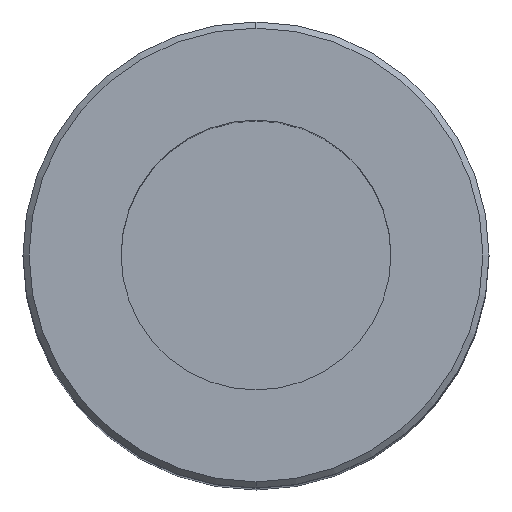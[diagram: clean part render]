
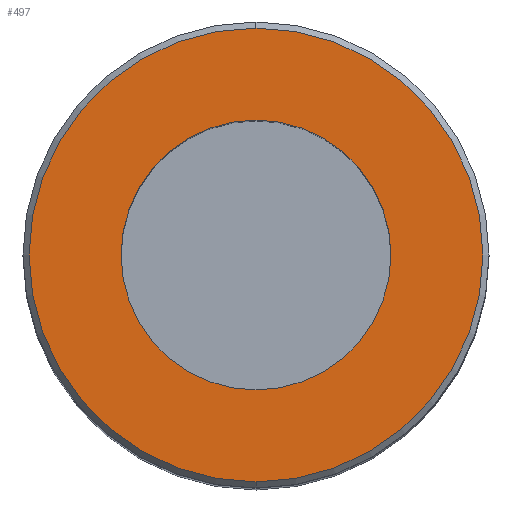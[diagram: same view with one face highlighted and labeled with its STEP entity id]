
A CAD part, top view. The second image highlights one B-rep face of the part: STEP entity #497.
In plain terms, the highlighted planar face has unit normal (0, 0, 1).
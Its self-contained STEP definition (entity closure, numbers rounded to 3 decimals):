
#400 = VERTEX_POINT('',#401);
#401 = CARTESIAN_POINT('',(0.,18.5,92.));
#407 = EDGE_CURVE('',#408,#400,#410,.T.);
#408 = VERTEX_POINT('',#409);
#409 = CARTESIAN_POINT('',(0.,-18.5,92.));
#410 = CIRCLE('',#411,18.5);
#411 = AXIS2_PLACEMENT_3D('',#412,#413,#414);
#412 = CARTESIAN_POINT('',(0.,0.,92.));
#413 = DIRECTION('',(0.,0.,1.));
#414 = DIRECTION('',(0.,1.,0.));
#434 = EDGE_CURVE('',#400,#408,#435,.T.);
#435 = CIRCLE('',#436,18.5);
#436 = AXIS2_PLACEMENT_3D('',#437,#438,#439);
#437 = CARTESIAN_POINT('',(0.,0.,92.));
#438 = DIRECTION('',(0.,0.,1.));
#439 = DIRECTION('',(0.,1.,0.));
#497 = ADVANCED_FACE('',(#498,#518),#522,.T.);
#498 = FACE_BOUND('',#499,.T.);
#499 = EDGE_LOOP('',(#500,#511));
#500 = ORIENTED_EDGE('',*,*,#501,.F.);
#501 = EDGE_CURVE('',#502,#504,#506,.T.);
#502 = VERTEX_POINT('',#503);
#503 = CARTESIAN_POINT('',(0.,11.,92.));
#504 = VERTEX_POINT('',#505);
#505 = CARTESIAN_POINT('',(0.,-11.,92.));
#506 = CIRCLE('',#507,11.);
#507 = AXIS2_PLACEMENT_3D('',#508,#509,#510);
#508 = CARTESIAN_POINT('',(0.,0.,92.));
#509 = DIRECTION('',(0.,0.,1.));
#510 = DIRECTION('',(0.,1.,0.));
#511 = ORIENTED_EDGE('',*,*,#512,.F.);
#512 = EDGE_CURVE('',#504,#502,#513,.T.);
#513 = CIRCLE('',#514,11.);
#514 = AXIS2_PLACEMENT_3D('',#515,#516,#517);
#515 = CARTESIAN_POINT('',(0.,0.,92.));
#516 = DIRECTION('',(0.,0.,1.));
#517 = DIRECTION('',(0.,1.,0.));
#518 = FACE_BOUND('',#519,.T.);
#519 = EDGE_LOOP('',(#520,#521));
#520 = ORIENTED_EDGE('',*,*,#434,.T.);
#521 = ORIENTED_EDGE('',*,*,#407,.T.);
#522 = PLANE('',#523);
#523 = AXIS2_PLACEMENT_3D('',#524,#525,#526);
#524 = CARTESIAN_POINT('',(0.,14.75,92.));
#525 = DIRECTION('',(0.,0.,1.));
#526 = DIRECTION('',(0.,1.,0.));
